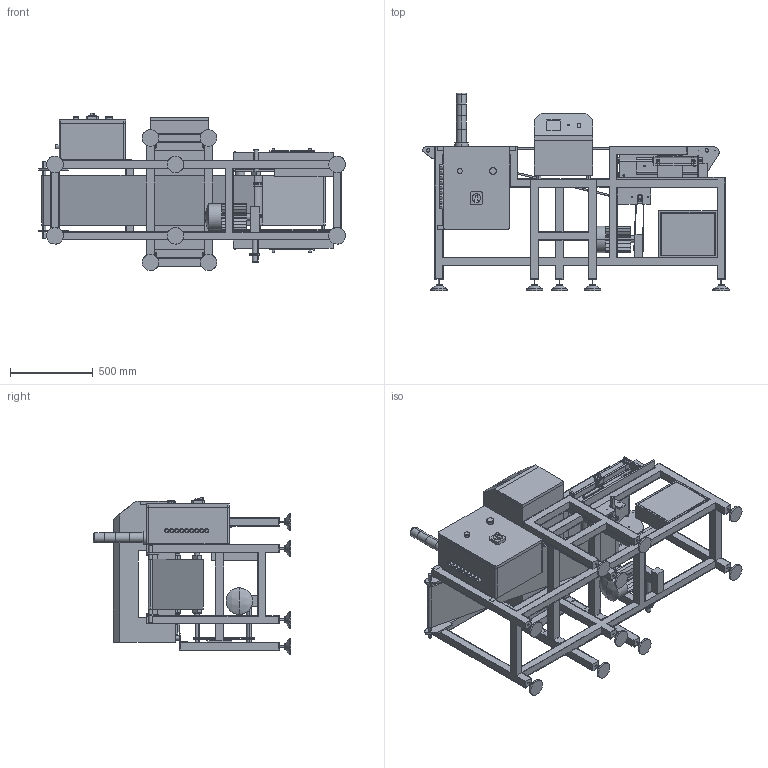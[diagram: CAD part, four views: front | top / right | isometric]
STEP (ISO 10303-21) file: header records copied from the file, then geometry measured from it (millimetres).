
FILE_DESCRIPTION(/* description */ (''),/* implementation_level */ '2;1');
FILE_NAME(/* name */ 'beltconveyor_a098_w350_l1700.stp',/* time_stamp */ '2025-01-04T15:23:07+08:00',/* author */ (''),/* organization */ (''),/* preprocessor_version */ 'ST-DEVELOPER v16.7',/* originating_system */ 'SIEMENS PLM Software NX 12.0',/* authorisation */ '');
FILE_SCHEMA (('AUTOMOTIVE_DESIGN { 1 0 10303 214 3 1 1 1 }'));
Products named in the file (26): Pneumatic box; retracting structure; nylon sprocket; Belt2-4^Assembly of retracting system; DETECTOR; front roller; slider; CONTROL UNIT; Seperate stan2; movable plate12903; piston connecting plate; drive roller sprocket; roller2; driven roller sprocket; square roller; Belt22^Assembly of retracting system; CYLINDER; motor3; TOWER LIGHT; CYLINDER MOUNTING PLATE; slide; SEPERATE STAND 1; PISTON; movable plate; leveling pad; beltconveyor_a098_w350_l1700
Assembly tree (44 placements, depth 2):
  beltconveyor_a098_w350_l1700
    leveling pad  x10
    movable plate
    PISTON  x2
    SEPERATE STAND 1  x2
    slide  x2
    CYLINDER MOUNTING PLATE  x2
    TOWER LIGHT
    motor3
    CYLINDER  x2
    Belt22^Assembly of retracting system
    square roller
    driven roller sprocket
    roller2
    drive roller sprocket
    piston connecting plate  x2
    movable plate12903
    Seperate stan2  x2
    CONTROL UNIT
    slider  x2
    front roller  x2
    DETECTOR
    Belt2-4^Assembly of retracting system
    nylon sprocket  x2
    retracting structure
    Pneumatic box
Bounding box: 1849.46 x 1190 x 948 mm (x, y, z)
Volume: 187897977.2 mm3; surface area: 15417057.8 mm2
Topology: 81 solids, 83 shells, 2410 faces, 6300 edges, 4110 vertices
Faces by surface type: plane 1420, cylinder 571, extrusion 369, bspline 32, torus 16, sphere 2
Entity records: 68957 total; most frequent: CARTESIAN_POINT 18349, ORIENTED_EDGE 10628, DIRECTION 8653, EDGE_CURVE 5314, VECTOR 3703, VERTEX_POINT 3466, LINE 3334, AXIS2_PLACEMENT_3D 2475
